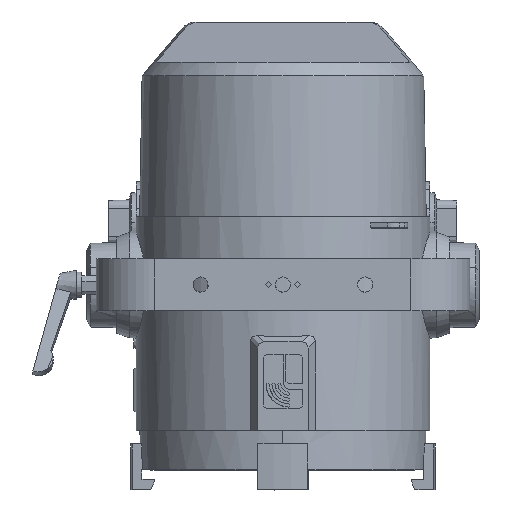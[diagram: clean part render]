
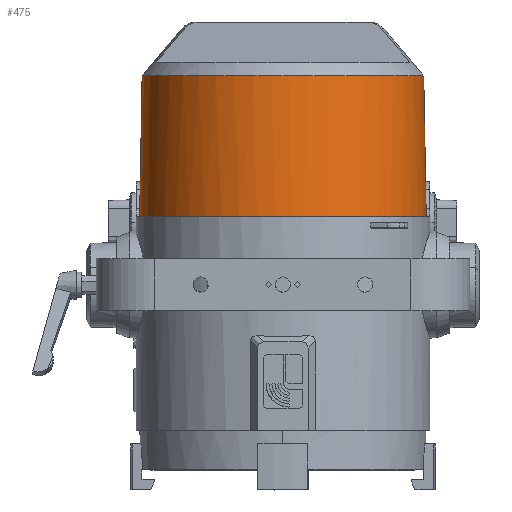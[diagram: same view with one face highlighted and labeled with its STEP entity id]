
A CAD part, top view. The second image highlights one B-rep face of the part: STEP entity #475.
In plain terms, the highlighted free-form (B-spline) face has degree [2, 1] with [5, 2] control points.
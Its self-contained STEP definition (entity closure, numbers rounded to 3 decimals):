
#475=ADVANCED_FACE('',(#953),#7879,.T.);
#953=FACE_OUTER_BOUND('',#1469,.T.);
#1469=EDGE_LOOP('',(#3659,#3660,#3661,#3662,#3663,#3664));
#3659=ORIENTED_EDGE('',*,*,#4282,.F.);
#3660=ORIENTED_EDGE('',*,*,#4283,.T.);
#3661=ORIENTED_EDGE('',*,*,#4291,.F.);
#3662=ORIENTED_EDGE('',*,*,#4312,.T.);
#3663=ORIENTED_EDGE('',*,*,#5135,.F.);
#3664=ORIENTED_EDGE('',*,*,#5133,.F.);
#4282=EDGE_CURVE('',#6765,#7302,#6158,.T.);
#4283=EDGE_CURVE('',#6765,#6750,#5455,.T.);
#4291=EDGE_CURVE('',#6752,#6750,#6162,.T.);
#4312=EDGE_CURVE('',#6752,#6751,#6163,.T.);
#5133=EDGE_CURVE('',#7302,#7303,#5978,.T.);
#5135=EDGE_CURVE('',#7303,#6751,#6487,.T.);
#5455=B_SPLINE_CURVE_WITH_KNOTS('',1,(#11498,#11499),.UNSPECIFIED.,.F.,
 .F.,(2,2),(11.675,131.524),.UNSPECIFIED.);
#5978=B_SPLINE_CURVE_WITH_KNOTS('',1,(#14397,#14398),.UNSPECIFIED.,.F.,
 .F.,(2,2),(11.675,131.524),.UNSPECIFIED.);
#6158=(
BOUNDED_CURVE()
B_SPLINE_CURVE(2,(#11493,#11494,#11495,#11496,#11497),.UNSPECIFIED.,.F.,
 .F.)
B_SPLINE_CURVE_WITH_KNOTS((3,2,3),(-767.893,-575.92,
-383.947),.UNSPECIFIED.)
CURVE()
GEOMETRIC_REPRESENTATION_ITEM()
RATIONAL_B_SPLINE_CURVE((1.,0.707,1.,0.707,1.))
REPRESENTATION_ITEM('')
);
#6162=(
BOUNDED_CURVE()
B_SPLINE_CURVE(2,(#11529,#11530,#11531),.UNSPECIFIED.,.F.,.F.)
B_SPLINE_CURVE_WITH_KNOTS((3,3),(767.746,767.893),
 .UNSPECIFIED.)
CURVE()
GEOMETRIC_REPRESENTATION_ITEM()
RATIONAL_B_SPLINE_CURVE((1.,1.,1.))
REPRESENTATION_ITEM('')
);
#6163=(
BOUNDED_CURVE()
B_SPLINE_CURVE(2,(#11586,#11587,#11588,#11589,#11590,#11591,#11592,#11593,
#11594),.UNSPECIFIED.,.F.,.F.)
B_SPLINE_CURVE_WITH_KNOTS((3,2,2,2,3),(-767.746,-720.226,
-575.92,-431.614,-384.094),.UNSPECIFIED.)
CURVE()
GEOMETRIC_REPRESENTATION_ITEM()
RATIONAL_B_SPLINE_CURVE((1.,0.981,1.,0.831,1.,0.831,
1.,0.981,1.))
REPRESENTATION_ITEM('')
);
#6487=(
BOUNDED_CURVE()
B_SPLINE_CURVE(2,(#14404,#14405,#14406),.UNSPECIFIED.,.F.,.F.)
B_SPLINE_CURVE_WITH_KNOTS((3,3),(383.947,384.094),
 .UNSPECIFIED.)
CURVE()
GEOMETRIC_REPRESENTATION_ITEM()
RATIONAL_B_SPLINE_CURVE((1.,1.,1.))
REPRESENTATION_ITEM('')
);
#6750=VERTEX_POINT('',#10340);
#6751=VERTEX_POINT('',#10341);
#6752=VERTEX_POINT('',#10342);
#6765=VERTEX_POINT('',#10355);
#7302=VERTEX_POINT('',#10892);
#7303=VERTEX_POINT('',#10893);
#7879=(
BOUNDED_SURFACE()
B_SPLINE_SURFACE(2,1,((#9978,#9979),(#9980,#9981),(#9982,#9983),(#9984,
#9985),(#9986,#9987)),.UNSPECIFIED.,.F.,.F.,.F.)
B_SPLINE_SURFACE_WITH_KNOTS((3,2,3),(2,2),(383.947,575.92,
767.893),(0.,143.787),.UNSPECIFIED.)
GEOMETRIC_REPRESENTATION_ITEM()
RATIONAL_B_SPLINE_SURFACE(((1.,1.),(0.707,0.707),
(1.,1.),(0.707,0.707),(1.,1.)))
REPRESENTATION_ITEM('')
SURFACE()
);
#9978=CARTESIAN_POINT('',(1619.705,214.004,0.));
#9979=CARTESIAN_POINT('',(1622.214,70.239,0.));
#9980=CARTESIAN_POINT('',(1619.705,214.004,119.705));
#9981=CARTESIAN_POINT('',(1622.214,70.239,122.214));
#9982=CARTESIAN_POINT('',(1500.,214.004,119.705));
#9983=CARTESIAN_POINT('',(1500.,70.239,122.214));
#9984=CARTESIAN_POINT('',(1380.295,214.004,119.705));
#9985=CARTESIAN_POINT('',(1377.786,70.239,122.214));
#9986=CARTESIAN_POINT('',(1380.295,214.004,0.));
#9987=CARTESIAN_POINT('',(1377.786,70.239,0.));
#10340=CARTESIAN_POINT('',(1378.,82.5,0.));
#10341=CARTESIAN_POINT('',(1622.,82.5,0.147));
#10342=CARTESIAN_POINT('',(1378.,82.5,0.147));
#10355=CARTESIAN_POINT('',(1380.092,202.331,0.));
#10892=CARTESIAN_POINT('',(1619.908,202.331,0.));
#10893=CARTESIAN_POINT('',(1622.,82.5,0.));
#11493=CARTESIAN_POINT('',(1380.092,202.331,0.));
#11494=CARTESIAN_POINT('',(1380.092,202.331,119.908));
#11495=CARTESIAN_POINT('',(1500.,202.331,119.908));
#11496=CARTESIAN_POINT('',(1619.908,202.331,119.908));
#11497=CARTESIAN_POINT('',(1619.908,202.331,0.));
#11498=CARTESIAN_POINT('',(1380.092,202.331,0.));
#11499=CARTESIAN_POINT('',(1378.,82.5,0.));
#11529=CARTESIAN_POINT('',(1378.,82.5,0.147));
#11530=CARTESIAN_POINT('',(1378.,82.5,0.074));
#11531=CARTESIAN_POINT('',(1378.,82.5,0.));
#11586=CARTESIAN_POINT('',(1378.,82.5,0.147));
#11587=CARTESIAN_POINT('',(1378.029,82.5,24.169));
#11588=CARTESIAN_POINT('',(1387.162,82.5,46.386));
#11589=CARTESIAN_POINT('',(1418.247,82.5,122.));
#11590=CARTESIAN_POINT('',(1500.,82.5,122.));
#11591=CARTESIAN_POINT('',(1581.753,82.5,122.));
#11592=CARTESIAN_POINT('',(1612.838,82.5,46.386));
#11593=CARTESIAN_POINT('',(1621.971,82.5,24.169));
#11594=CARTESIAN_POINT('',(1622.,82.5,0.147));
#14397=CARTESIAN_POINT('',(1619.908,202.331,0.));
#14398=CARTESIAN_POINT('',(1622.,82.5,0.));
#14404=CARTESIAN_POINT('',(1622.,82.5,0.));
#14405=CARTESIAN_POINT('',(1622.,82.5,0.074));
#14406=CARTESIAN_POINT('',(1622.,82.5,0.147));
